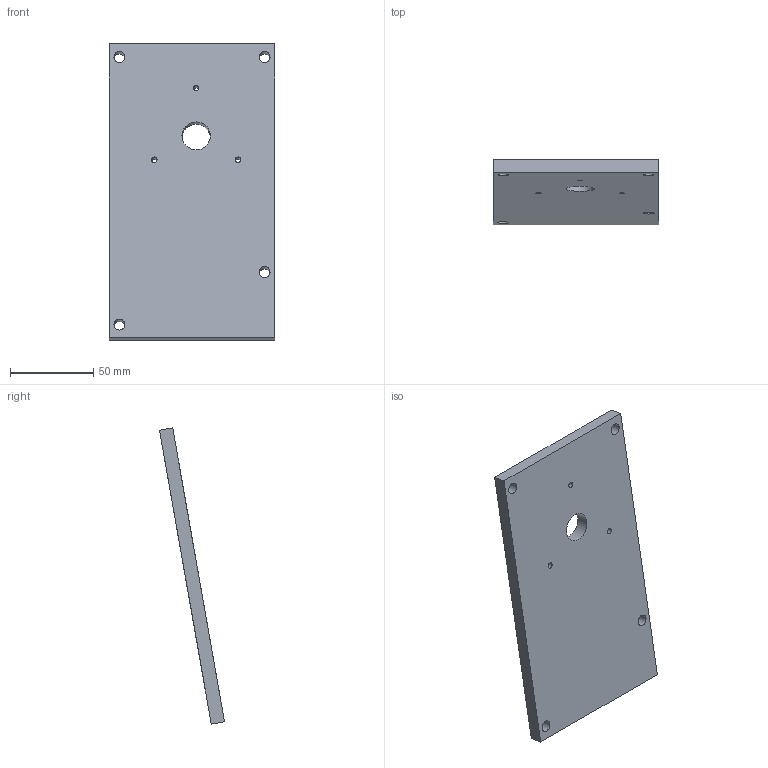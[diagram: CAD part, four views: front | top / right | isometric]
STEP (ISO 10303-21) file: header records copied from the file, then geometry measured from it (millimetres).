
FILE_DESCRIPTION(('golf model'),'2;1');
FILE_NAME('golf','',(''),(''),'golf_step_io','golf','');
FILE_SCHEMA(('AUTOMOTIVE_DESIGN { 1 0 10303 214 1 1 1 1 }'));
Length unit declared in the file: millimetre
Products named in the file (2): ASSEMBLY; gantry_drives.x_pivot_plate_top
Assembly tree (1 placements, depth 2):
  ASSEMBLY
    gantry_drives.x_pivot_plate_top
Bounding box: 99 x 38.95 x 177.59 mm (x, y, z)
Volume: 138584.8 mm3; surface area: 40432.4 mm2
Topology: 1 solids, 1 shells, 14 faces, 36 edges, 24 vertices
Faces by surface type: cylinder 8, plane 6
Full cylindrical faces by diameter (mm): 3.3 x3, 6.6 x4, 17 x1
Entity records: 462 total; most frequent: DIRECTION 76, CARTESIAN_POINT 68, ORIENTED_EDGE 56, EDGE_LOOP 38, FACE_BOUND 36, AXIS2_PLACEMENT_3D 32, EDGE_CURVE 28, VERTEX_POINT 24
